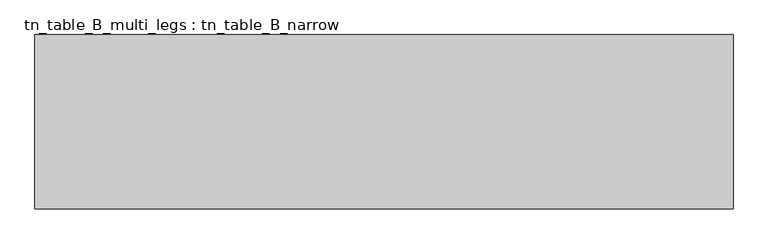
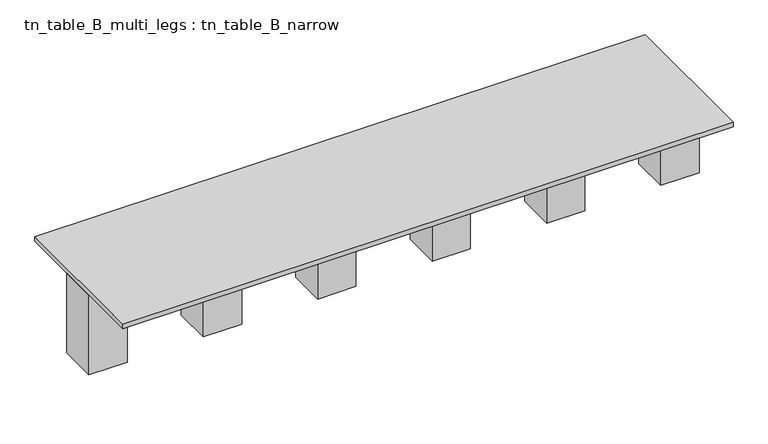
"""IFC4 building model written with IfcOpenShell, lengths in millimetres: furniture geometry, tn_table_B_multi_legs : tn_table_B_narrow."""

import ifcopenshell
import ifcopenshell.guid

model = None  # the IFC model being written
_history = None  # IfcOwnerHistory: only IFC2X3 demands one
_inside = {}  # id of a spatial element -> (the spatial element, [elements in it])
_under = {}  # id of a project, library or spatial element -> (it, [spatial elements below it])
_declared = {}  # id of a project -> (the project, [libraries it declares])
_typed = {}  # id of a type object -> (the type object, [elements of that type])
_made_of = {}  # id of a material, layer set ... -> (it, [elements and type objects made of it])


def new_model(schema):
    """Start an empty IFC model of exactly this schema.

    Asked for "IFC4X3", IfcOpenShell would pick the latest addendum, in which some entities
    have other attributes; the version numbers below select the first issue.
    IFC2X3 requires an IfcOwnerHistory on every rooted entity: one is made here for all.
    """
    global model, _history
    if schema == "IFC4X3":
        model = ifcopenshell.file(schema_version=(4, 3, 0, 0))
    else:
        model = ifcopenshell.file(schema=schema)
    _inside.clear()
    _under.clear()
    _declared.clear()
    _typed.clear()
    _made_of.clear()
    _history = None
    if model.schema == "IFC2X3":
        org = make("IfcOrganization", Name="unknown")
        user = make(
            "IfcPersonAndOrganization",
            ThePerson=make("IfcPerson", FamilyName="unknown"),
            TheOrganization=org,
        )
        app = make(
            "IfcApplication",
            ApplicationDeveloper=org,
            Version="unknown",
            ApplicationFullName="unknown",
            ApplicationIdentifier="unknown",
        )
        _history = make(
            "IfcOwnerHistory",
            OwningUser=user,
            OwningApplication=app,
            ChangeAction="ADDED",
            CreationDate=0,
        )
    return model


def make(cls, **values):
    """One entity of the class cls with the attributes given. An attribute that is None is left unset."""
    return model.create_entity(
        cls, **{name: value for name, value in values.items() if value is not None}
    )


def rooted(cls, **values):
    """An entity with a GlobalId (a new one), such as an element, a storey or a relation."""
    return make(cls, GlobalId=ifcopenshell.guid.new(), OwnerHistory=_history, **values)


def si_unit(unit_type, name, prefix=None):
    """IfcSIUnit, for example si_unit("LENGTHUNIT", "METRE", prefix="MILLI")."""
    return make("IfcSIUnit", UnitType=unit_type, Prefix=prefix, Name=name)


def assignment(units):
    """IfcUnitAssignment: the units of a project."""
    return None if units is None else make("IfcUnitAssignment", Units=units)


def point(xyz):
    """IfcCartesianPoint."""
    return None if xyz is None else make("IfcCartesianPoint", Coordinates=xyz)


def direction(xyz):
    """IfcDirection."""
    return None if xyz is None else make("IfcDirection", DirectionRatios=xyz)


def frame(location, z_axis=None, x_axis=None):
    """IfcAxis2Placement3D, a coordinate frame: its origin and axes. An axis left out is left unset."""
    return make(
        "IfcAxis2Placement3D",
        Location=point(location),
        Axis=direction(z_axis),
        RefDirection=direction(x_axis),
    )


def origin():
    """The frame at (0, 0, 0) with its axes left unset."""
    return frame((0.0, 0.0, 0.0))


def origin_with_axes():
    """The frame at (0, 0, 0) with the z axis (0, 0, 1) and the x axis (1, 0, 0) written out."""
    return frame((0.0, 0.0, 0.0), z_axis=(0.0, 0.0, 1.0), x_axis=(1.0, 0.0, 0.0))


def place(relative_to, where):
    """IfcLocalPlacement: puts the frame where relative to a parent placement (None: the world)."""
    return make(
        "IfcLocalPlacement", PlacementRelTo=relative_to, RelativePlacement=where
    )


def context(
    kind, dimensions, precision=None, world=None, true_north=None, identifier=None
):
    """IfcGeometricRepresentationContext, for example the 3D "Model" context."""
    return make(
        "IfcGeometricRepresentationContext",
        ContextIdentifier=identifier,
        ContextType=kind,
        CoordinateSpaceDimension=dimensions,
        Precision=precision,
        WorldCoordinateSystem=world,
        TrueNorth=true_north,
    )


def project(units=None, contexts=None):
    """IfcProject with its units and contexts."""
    return rooted(
        "IfcProject",
        Name="project",
        RepresentationContexts=contexts,
        UnitsInContext=assignment(units),
    )


def spatial(cls, under=None, at=None, **own):
    """A site, building, storey or space (cls), placed at a placement, below another one or the project."""
    s = rooted(cls, ObjectPlacement=at, **own)
    if under is not None:
        _under.setdefault(under.id(), (under, []))[1].append(s)
    return s


def polyline(points):
    """IfcPolyline through the points."""
    return make("IfcPolyline", Points=[point(p) for p in points])


def outline(outer, holes=None, kind="AREA"):
    """IfcArbitraryClosedProfileDef: a profile drawn as a closed curve; with holes, ...WithVoids."""
    if holes is None:
        return make("IfcArbitraryClosedProfileDef", ProfileType=kind, OuterCurve=outer)
    return make(
        "IfcArbitraryProfileDefWithVoids",
        ProfileType=kind,
        OuterCurve=outer,
        InnerCurves=holes,
    )


def extrude(swept, where, along, depth):
    """IfcExtrudedAreaSolid: the profile swept, set in the frame where, extruded along a direction by depth."""
    return make(
        "IfcExtrudedAreaSolid",
        SweptArea=swept,
        Position=where,
        ExtrudedDirection=direction(along),
        Depth=depth,
    )


def shape(context_of_items, identifier, shape_type, items):
    """IfcShapeRepresentation: the items that make up one representation, for example the "Body"."""
    return make(
        "IfcShapeRepresentation",
        ContextOfItems=context_of_items,
        RepresentationIdentifier=identifier,
        RepresentationType=shape_type,
        Items=items,
    )


def source(mapping_origin, context_of_items, identifier, shape_type, items):
    """IfcRepresentationMap: a shape defined once, which mapped items show again and again."""
    return make(
        "IfcRepresentationMap",
        MappingOrigin=mapping_origin,
        MappedRepresentation=shape(context_of_items, identifier, shape_type, items),
    )


def transform(
    local_origin,
    x_axis=None,
    y_axis=None,
    z_axis=None,
    scale=None,
    scale2=None,
    scale3=None,
    uniform=True,
):
    """IfcCartesianTransformationOperator3D, or its non-uniform kind. x_axis, y_axis, z_axis: its Axis1, 2, 3."""
    if uniform:
        return make(
            "IfcCartesianTransformationOperator3D",
            Axis1=direction(x_axis),
            Axis2=direction(y_axis),
            LocalOrigin=point(local_origin),
            Scale=scale,
            Axis3=direction(z_axis),
        )
    return make(
        "IfcCartesianTransformationOperator3DnonUniform",
        Axis1=direction(x_axis),
        Axis2=direction(y_axis),
        LocalOrigin=point(local_origin),
        Scale=scale,
        Axis3=direction(z_axis),
        Scale2=scale2,
        Scale3=scale3,
    )


def mapped(mapping_source, mapping_target):
    """IfcMappedItem: shows the shape of a source again, moved by a transform."""
    return make(
        "IfcMappedItem", MappingSource=mapping_source, MappingTarget=mapping_target
    )


def made_of(thing, what):
    """Note that an element or type object is made of a material, layer set ...; save() writes the relation."""
    if what is not None:
        _made_of.setdefault(what.id(), (what, []))[1].append(thing)
    return thing


def element(
    cls,
    number,
    at=None,
    inside=None,
    cuts=None,
    type_object=None,
    material=None,
    context=None,
    identifier="Body",
    shape_type=None,
    held_by="IfcProductDefinitionShape",
    body=None,
    shapes=None,
    **own,
):
    """One element of the class cls, such as IfcWall. Its Tag is "e" and its number.

    at: its placement. inside: the storey or other place that contains it. cuts: it is an
    opening in that element (IfcRelVoidsElement). A single representation is given by context,
    identifier, shape_type and body (its items); several are given by shapes. held_by: the class
    of the entity that holds the representations. save() writes the other relations.
    """
    e = rooted(cls, Tag="e%d" % number, ObjectPlacement=at, **own)
    if body is not None:
        shapes = [shape(context, identifier, shape_type, body)]
    if shapes is not None:
        e.Representation = make(held_by, Representations=shapes)
    if inside is not None:
        _inside.setdefault(inside.id(), (inside, []))[1].append(e)
    if cuts is not None:
        rooted(
            "IfcRelVoidsElement", RelatingBuildingElement=cuts, RelatedOpeningElement=e
        )
    if type_object is not None:
        _typed.setdefault(type_object.id(), (type_object, []))[1].append(e)
    return made_of(e, material)


def aggregate(whole, parts):
    """IfcRelAggregates: a whole, such as a stair, and the parts it consists of."""
    return rooted("IfcRelAggregates", RelatingObject=whole, RelatedObjects=parts)


def save(model, path):
    """Write the relations noted so far, then the file.

    IfcRelAggregates (storeys below a building ...), IfcRelContainedInSpatialStructure (elements
    in a storey), IfcRelDefinesByType, IfcRelAssociatesMaterial and IfcRelDeclares: one each for
    every whole, place, type object, material and project.
    """
    for whole, parts in _under.values():
        aggregate(whole, parts)
    for where, things in _inside.values():
        rooted(
            "IfcRelContainedInSpatialStructure",
            RelatedElements=things,
            RelatingStructure=where,
        )
    for kind, things in _typed.values():
        rooted("IfcRelDefinesByType", RelatedObjects=things, RelatingType=kind)
    for what, things in _made_of.values():
        rooted("IfcRelAssociatesMaterial", RelatedObjects=things, RelatingMaterial=what)
    for by, libraries in _declared.values():
        rooted("IfcRelDeclares", RelatingContext=by, RelatedDefinitions=libraries)
    model.write(path)


def tn_table_b_multi_legs_tn_table_b_narrow_474e273d(model_context):
    return source(origin(), model_context, "Body", "SweptSolid", [
        extrude(outline(polyline([(3340.0621021, 165.9256545), (3340.0621021, -138.8743455), (3035.2621021, -138.8743455), (3035.2621021, 165.9256545), (3340.0621021, 165.9256545)])), origin_with_axes(), (0.0, 0.0, 1.0), 673.1),
        extrude(outline(polyline([(2425.6621021, 165.9256545), (2425.6621021, -138.8743455), (2120.8621021, -138.8743455), (2120.8621021, 165.9256545), (2425.6621021, 165.9256545)])), origin_with_axes(), (0.0, 0.0, 1.0), 673.1),
        extrude(outline(polyline([(1511.2621021, 165.9256545), (1511.2621021, -138.8743455), (1206.4621021, -138.8743455), (1206.4621021, 165.9256545), (1511.2621021, 165.9256545)])), origin_with_axes(), (0.0, 0.0, 1.0), 673.1),
        extrude(outline(polyline([(596.8621021, 165.9256545), (596.8621021, -138.8743455), (292.0621021, -138.8743455), (292.0621021, 165.9256545), (596.8621021, 165.9256545)])), origin_with_axes(), (0.0, 0.0, 1.0), 673.1),
        extrude(outline(polyline([(-317.5378979, 165.9256545), (-317.5378979, -138.8743455), (-622.3378979, -138.8743455), (-622.3378979, 165.9256545), (-317.5378979, 165.9256545)])), origin_with_axes(), (0.0, 0.0, 1.0), 673.1),
        extrude(outline(polyline([(-1231.9378979, 165.9256545), (-1231.9378979, -138.8743455), (-1536.7378979, -138.8743455), (-1536.7378979, 165.9256545), (-1231.9378979, 165.9256545)])), origin_with_axes(), (0.0, 0.0, 1.0), 673.1),
        extrude(outline(polyline([(3340.0621021, 609.6), (3340.0621021, -609.6), (-1536.7378979, -609.6), (-1536.7378979, 609.6), (3340.0621021, 609.6)])), frame((0.0, 0.0, 673.1), z_axis=(0.0, 0.0, 1.0), x_axis=(1.0, 0.0, 0.0)), (0.0, 0.0, 1.0), 38.1),
    ])


if __name__ == "__main__":
    model = new_model("IFC4")
    model_context = context("Model", 3, world=origin())
    ifc_project = project(units=[si_unit("LENGTHUNIT", "METRE", prefix="MILLI")], contexts=[model_context])
    site = spatial("IfcSite", under=ifc_project)
    building = spatial("IfcBuilding", under=site)
    placement = place(None, origin())
    tn_table_b_multi_legs_tn_table_b_narrow_shape = tn_table_b_multi_legs_tn_table_b_narrow_474e273d(model_context)
    element("IfcFurniture", 1, ObjectType="tn_table_B_multi_legs : tn_table_B_narrow", at=placement, inside=building, context=model_context, shape_type="MappedRepresentation", body=[
        mapped(tn_table_b_multi_legs_tn_table_b_narrow_shape, transform((0.0, 0.0, 0.0), x_axis=(1.0, 0.0, 0.0), y_axis=(0.0, 1.0, 0.0), z_axis=(0.0, 0.0, 1.0))),
    ])
    save(model, "model.ifc")
